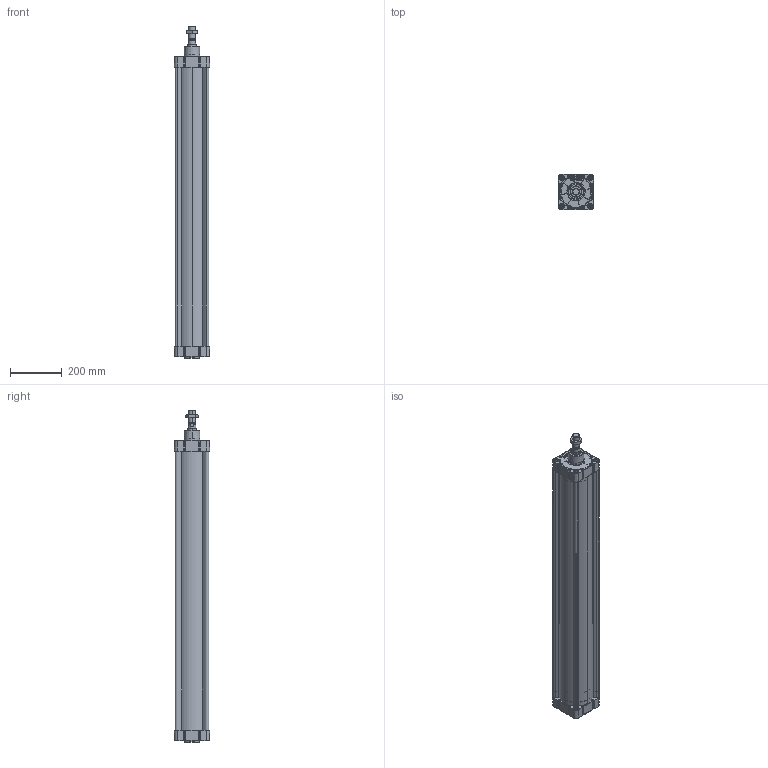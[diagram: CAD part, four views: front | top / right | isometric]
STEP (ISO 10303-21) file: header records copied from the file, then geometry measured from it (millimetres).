
FILE_DESCRIPTION (( 'STEP AP214' ), '1' );
FILE_NAME ('E11M21251000.STEP', '2021-10-29T09:55:32', ( '' ), ( '' ), 'SwSTEP 2.0', 'SolidWorks 2016', '' );
FILE_SCHEMA (( 'AUTOMOTIVE_DESIGN' ));
Length unit declared in the file: millimetre
Products named in the file (7): TA Ø125 ISO 15552 WEB; 21.G01.0000_21.G01.1000; 21.754.0; TP Ø125 ISO 15552 WEB; E11M21251000; Pistone Ø125 ISO 15552; 000.536.7_000.536.1000
Assembly tree (6 placements, depth 2):
  E11M21251000
    TP Ø125 ISO 15552 WEB
    TA Ø125 ISO 15552 WEB
    21.754.0
    21.G01.0000_21.G01.1000
    Pistone Ø125 ISO 15552
    000.536.7_000.536.1000
Bounding box: 135.91 x 135.95 x 1284 mm (x, y, z)
Volume: 4842059.1 mm3; surface area: 1934152.5 mm2
Topology: 17 solids, 21 shells, 2502 faces, 6443 edges, 4029 vertices
Faces by surface type: plane 991, cylinder 705, bspline 365, cone 312, torus 96, sphere 33
Entity records: 116283 total; most frequent: CARTESIAN_POINT 32829, ORIENTED_EDGE 12750, DIRECTION 11490, EDGE_CURVE 6375, AXIS2_PLACEMENT_3D 4112, VERTEX_POINT 4029, VECTOR 3266, LINE 3266
